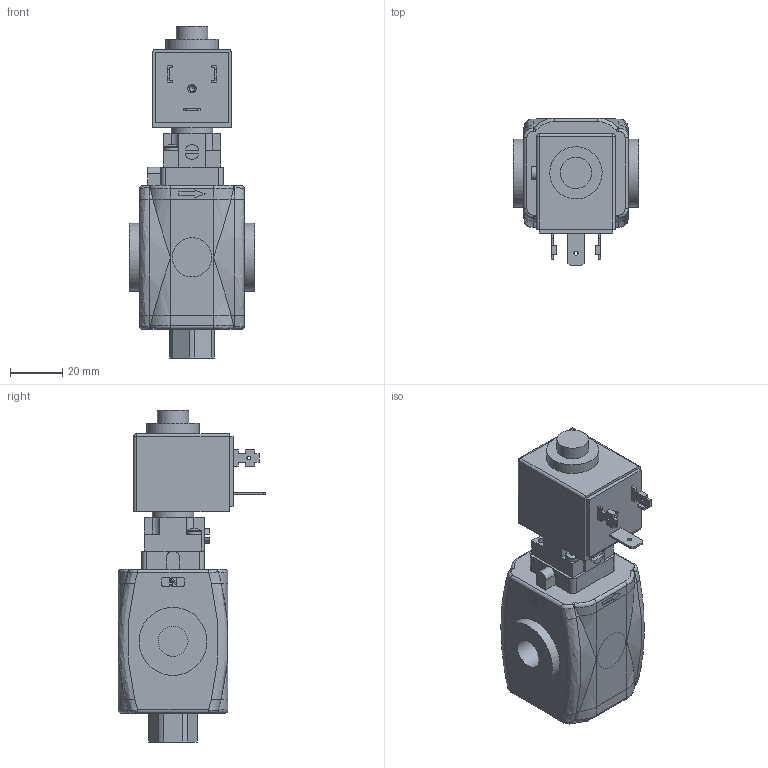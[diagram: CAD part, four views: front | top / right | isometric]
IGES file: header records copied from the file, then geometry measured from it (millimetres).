
Global section: file name: No Iges File Name specified; native system: Autodesk Inventor 2013; preprocessor: AutoDesk Inventor Iges Exporter R2013; author: valotma1; date: 20130610.104322; units: millimetre
Bounding box: 48 x 56.5 x 127 mm (x, y, z)
Volume: 139187.5 mm3; surface area: 26936.3 mm2
Topology: 5 solids, 5 shells, 431 faces, 1039 edges, 655 vertices
Faces by surface type: bspline 431
